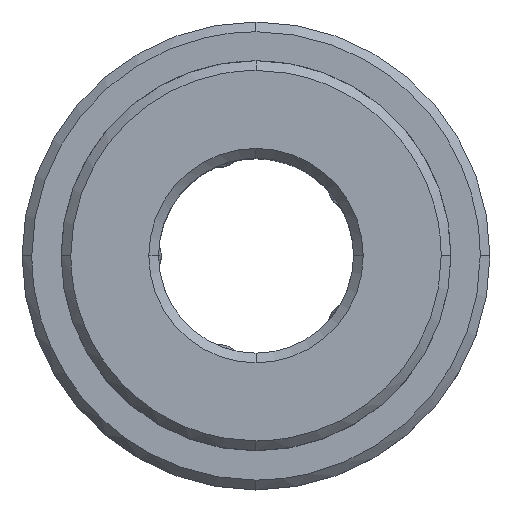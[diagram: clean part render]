
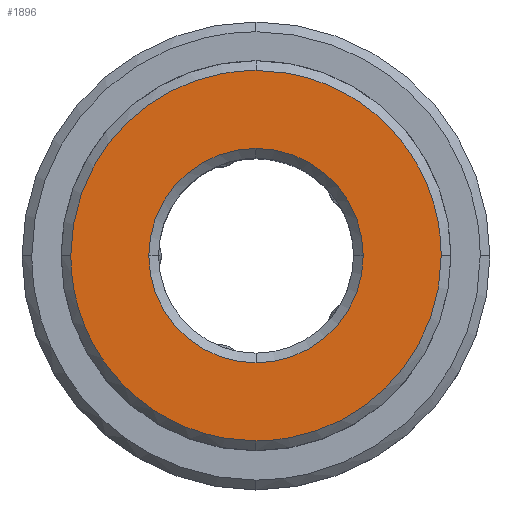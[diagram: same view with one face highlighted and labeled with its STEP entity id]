
A CAD part, top view. The second image highlights one B-rep face of the part: STEP entity #1896.
In plain terms, the highlighted planar face has unit normal (0, 0, 1).
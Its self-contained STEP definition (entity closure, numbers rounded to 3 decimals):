
#1240=CARTESIAN_POINT('Vertex',(5.5,0.,12.)) ;
#1243=CARTESIAN_POINT('Axis2P3D Location',(0.,0.,12.)) ;
#1247=CARTESIAN_POINT('Vertex',(0.,5.5,12.)) ;
#1267=CARTESIAN_POINT('Axis2P3D Location',(0.,0.,12.)) ;
#1271=CARTESIAN_POINT('Vertex',(-5.5,0.,12.)) ;
#1451=CARTESIAN_POINT('Axis2P3D Location',(0.,0.,12.)) ;
#1455=CARTESIAN_POINT('Vertex',(0.,-5.5,12.)) ;
#1475=CARTESIAN_POINT('Axis2P3D Location',(0.,0.,12.)) ;
#1803=CARTESIAN_POINT('Axis2P3D Location',(0.,0.,12.)) ;
#1809=CARTESIAN_POINT('Control Point',(0.,9.5,12.)) ;
#1810=CARTESIAN_POINT('Control Point',(0.639,9.5,12.)) ;
#1811=CARTESIAN_POINT('Control Point',(1.279,9.446,12.)) ;
#1812=CARTESIAN_POINT('Control Point',(1.912,9.339,12.)) ;
#1813=CARTESIAN_POINT('Control Point',(3.414,8.951,12.)) ;
#1814=CARTESIAN_POINT('Control Point',(4.812,8.267,12.)) ;
#1815=CARTESIAN_POINT('Control Point',(5.579,7.769,12.)) ;
#1816=CARTESIAN_POINT('Control Point',(6.981,6.601,12.)) ;
#1817=CARTESIAN_POINT('Control Point',(8.069,5.136,12.)) ;
#1818=CARTESIAN_POINT('Control Point',(8.523,4.342,12.)) ;
#1819=CARTESIAN_POINT('Control Point',(9.086,3.007,12.)) ;
#1820=CARTESIAN_POINT('Control Point',(9.388,1.596,12.)) ;
#1821=CARTESIAN_POINT('Control Point',(9.463,1.066,12.)) ;
#1822=CARTESIAN_POINT('Control Point',(9.5,0.533,12.)) ;
#1823=CARTESIAN_POINT('Control Point',(9.5,0.,12.)) ;
#1824=CARTESIAN_POINT('Vertex',(0.,9.5,12.)) ;
#1826=CARTESIAN_POINT('Vertex',(9.5,0.,12.)) ;
#1830=CARTESIAN_POINT('Control Point',(-9.5,0.,12.)) ;
#1831=CARTESIAN_POINT('Control Point',(-9.5,0.906,12.)) ;
#1832=CARTESIAN_POINT('Control Point',(-9.392,1.812,12.)) ;
#1833=CARTESIAN_POINT('Control Point',(-9.176,2.701,12.)) ;
#1834=CARTESIAN_POINT('Control Point',(-8.536,4.41,12.)) ;
#1835=CARTESIAN_POINT('Control Point',(-7.513,5.92,12.)) ;
#1836=CARTESIAN_POINT('Control Point',(-6.913,6.611,12.)) ;
#1837=CARTESIAN_POINT('Control Point',(-5.56,7.836,12.)) ;
#1838=CARTESIAN_POINT('Control Point',(-3.957,8.708,12.)) ;
#1839=CARTESIAN_POINT('Control Point',(-3.108,9.046,12.)) ;
#1840=CARTESIAN_POINT('Control Point',(-1.966,9.349,12.)) ;
#1841=CARTESIAN_POINT('Control Point',(-0.799,9.472,12.)) ;
#1842=CARTESIAN_POINT('Control Point',(-0.533,9.491,12.)) ;
#1843=CARTESIAN_POINT('Control Point',(-0.267,9.5,12.)) ;
#1844=CARTESIAN_POINT('Control Point',(0.,9.5,12.)) ;
#1845=CARTESIAN_POINT('Vertex',(-9.5,0.,12.)) ;
#1849=CARTESIAN_POINT('Control Point',(0.,-9.5,12.)) ;
#1850=CARTESIAN_POINT('Control Point',(-0.639,-9.5,12.)) ;
#1851=CARTESIAN_POINT('Control Point',(-1.279,-9.446,12.)) ;
#1852=CARTESIAN_POINT('Control Point',(-1.912,-9.339,12.)) ;
#1853=CARTESIAN_POINT('Control Point',(-3.414,-8.951,12.)) ;
#1854=CARTESIAN_POINT('Control Point',(-4.812,-8.267,12.)) ;
#1855=CARTESIAN_POINT('Control Point',(-5.579,-7.769,12.)) ;
#1856=CARTESIAN_POINT('Control Point',(-6.981,-6.601,12.)) ;
#1857=CARTESIAN_POINT('Control Point',(-8.069,-5.136,12.)) ;
#1858=CARTESIAN_POINT('Control Point',(-8.523,-4.342,12.)) ;
#1859=CARTESIAN_POINT('Control Point',(-9.086,-3.007,12.)) ;
#1860=CARTESIAN_POINT('Control Point',(-9.388,-1.596,12.)) ;
#1861=CARTESIAN_POINT('Control Point',(-9.463,-1.066,12.)) ;
#1862=CARTESIAN_POINT('Control Point',(-9.5,-0.533,12.)) ;
#1863=CARTESIAN_POINT('Control Point',(-9.5,0.,12.)) ;
#1864=CARTESIAN_POINT('Vertex',(0.,-9.5,12.)) ;
#1868=CARTESIAN_POINT('Control Point',(9.5,0.,12.)) ;
#1869=CARTESIAN_POINT('Control Point',(9.5,-0.906,12.)) ;
#1870=CARTESIAN_POINT('Control Point',(9.392,-1.812,12.)) ;
#1871=CARTESIAN_POINT('Control Point',(9.176,-2.701,12.)) ;
#1872=CARTESIAN_POINT('Control Point',(8.536,-4.41,12.)) ;
#1873=CARTESIAN_POINT('Control Point',(7.513,-5.92,12.)) ;
#1874=CARTESIAN_POINT('Control Point',(6.913,-6.611,12.)) ;
#1875=CARTESIAN_POINT('Control Point',(5.56,-7.836,12.)) ;
#1876=CARTESIAN_POINT('Control Point',(3.957,-8.708,12.)) ;
#1877=CARTESIAN_POINT('Control Point',(3.108,-9.046,12.)) ;
#1878=CARTESIAN_POINT('Control Point',(1.966,-9.349,12.)) ;
#1879=CARTESIAN_POINT('Control Point',(0.799,-9.472,12.)) ;
#1880=CARTESIAN_POINT('Control Point',(0.533,-9.491,12.)) ;
#1881=CARTESIAN_POINT('Control Point',(0.267,-9.5,12.)) ;
#1882=CARTESIAN_POINT('Control Point',(0.,-9.5,12.)) ;
#1244=DIRECTION('Axis2P3D Direction',(0.,0.,1.)) ;
#1268=DIRECTION('Axis2P3D Direction',(0.,0.,1.)) ;
#1452=DIRECTION('Axis2P3D Direction',(0.,0.,1.)) ;
#1476=DIRECTION('Axis2P3D Direction',(0.,0.,1.)) ;
#1804=DIRECTION('Axis2P3D Direction',(0.,0.,1.)) ;
#1805=DIRECTION('Axis2P3D XDirection',(-1.,0.,0.)) ;
#1245=AXIS2_PLACEMENT_3D('Circle Axis2P3D',#1243,#1244,$) ;
#1269=AXIS2_PLACEMENT_3D('Circle Axis2P3D',#1267,#1268,$) ;
#1453=AXIS2_PLACEMENT_3D('Circle Axis2P3D',#1451,#1452,$) ;
#1477=AXIS2_PLACEMENT_3D('Circle Axis2P3D',#1475,#1476,$) ;
#1806=AXIS2_PLACEMENT_3D('Plane Axis2P3D',#1803,#1804,#1805) ;
#1885=ORIENTED_EDGE('',*,*,#1828,.F.) ;
#1886=ORIENTED_EDGE('',*,*,#1847,.F.) ;
#1887=ORIENTED_EDGE('',*,*,#1866,.F.) ;
#1888=ORIENTED_EDGE('',*,*,#1883,.F.) ;
#1891=ORIENTED_EDGE('',*,*,#1479,.T.) ;
#1892=ORIENTED_EDGE('',*,*,#1457,.T.) ;
#1893=ORIENTED_EDGE('',*,*,#1273,.T.) ;
#1894=ORIENTED_EDGE('',*,*,#1249,.T.) ;
#1895=FACE_BOUND('',#1890,.T.) ;
#1896=ADVANCED_FACE('MANIFOLD_SOLID_BREP #1739',(#1889,#1895),#1807,.T.) ;
#1808=B_SPLINE_CURVE_WITH_KNOTS('',5,(#1809,#1810,#1811,#1812,#1813,#1814,#1815,#1816,#1817,#1818,#1819,#1820,#1821,#1822,#1823),.UNSPECIFIED.,.F.,.U.,(6,3,3,3,6),(21.103,25.625,32.031,38.437,42.207),.UNSPECIFIED.) ;
#1829=B_SPLINE_CURVE_WITH_KNOTS('',5,(#1830,#1831,#1832,#1833,#1834,#1835,#1836,#1837,#1838,#1839,#1840,#1841,#1842,#1843,#1844),.UNSPECIFIED.,.F.,.U.,(6,3,3,3,6),(0.,6.406,12.812,19.219,21.103),.UNSPECIFIED.) ;
#1848=B_SPLINE_CURVE_WITH_KNOTS('',5,(#1849,#1850,#1851,#1852,#1853,#1854,#1855,#1856,#1857,#1858,#1859,#1860,#1861,#1862,#1863),.UNSPECIFIED.,.F.,.U.,(6,3,3,3,6),(21.103,25.625,32.031,38.437,42.207),.UNSPECIFIED.) ;
#1867=B_SPLINE_CURVE_WITH_KNOTS('',5,(#1868,#1869,#1870,#1871,#1872,#1873,#1874,#1875,#1876,#1877,#1878,#1879,#1880,#1881,#1882),.UNSPECIFIED.,.F.,.U.,(6,3,3,3,6),(0.,6.406,12.812,19.219,21.103),.UNSPECIFIED.) ;
#1246=CIRCLE('generated circle',#1245,5.5) ;
#1270=CIRCLE('generated circle',#1269,5.5) ;
#1454=CIRCLE('generated circle',#1453,5.5) ;
#1478=CIRCLE('generated circle',#1477,5.5) ;
#1249=EDGE_CURVE('',#1248,#1241,#1246,.F.) ;
#1273=EDGE_CURVE('',#1272,#1248,#1270,.F.) ;
#1457=EDGE_CURVE('',#1456,#1272,#1454,.F.) ;
#1479=EDGE_CURVE('',#1241,#1456,#1478,.F.) ;
#1828=EDGE_CURVE('',#1825,#1827,#1808,.T.) ;
#1847=EDGE_CURVE('',#1846,#1825,#1829,.T.) ;
#1866=EDGE_CURVE('',#1865,#1846,#1848,.T.) ;
#1883=EDGE_CURVE('',#1827,#1865,#1867,.T.) ;
#1884=EDGE_LOOP('',(#1885,#1886,#1887,#1888)) ;
#1890=EDGE_LOOP('',(#1891,#1892,#1893,#1894)) ;
#1889=FACE_OUTER_BOUND('',#1884,.T.) ;
#1807=PLANE('Plane',#1806) ;
#1241=VERTEX_POINT('',#1240) ;
#1248=VERTEX_POINT('',#1247) ;
#1272=VERTEX_POINT('',#1271) ;
#1456=VERTEX_POINT('',#1455) ;
#1825=VERTEX_POINT('',#1824) ;
#1827=VERTEX_POINT('',#1826) ;
#1846=VERTEX_POINT('',#1845) ;
#1865=VERTEX_POINT('',#1864) ;
